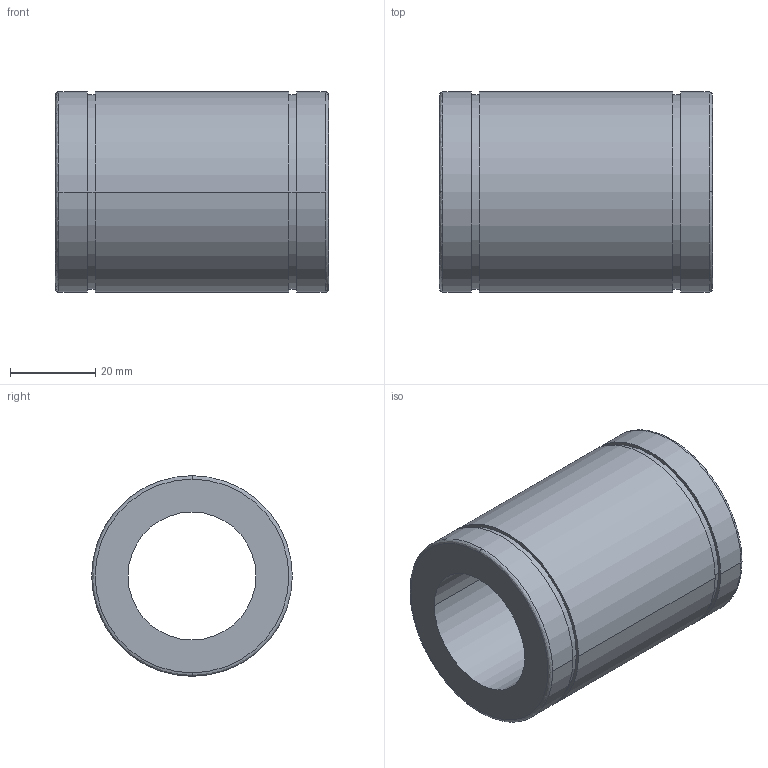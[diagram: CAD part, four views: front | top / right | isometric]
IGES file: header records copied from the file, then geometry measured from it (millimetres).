
Start section: 3D InterOp IGES (Version 21 0 1), Spatial Corp. Copyright (c) 1999-2007.
Global section: file name: N-30UU.igs; native system: Spatial Corp.; preprocessor: 3D InterOp GENERIC/IGES 3.0; author: Noname; organization: Noname; date: 20220311.144909; units: millimetre
Bounding box: 64 x 47 x 47 mm (x, y, z)
Surface area: 17854.4 mm2 (no closed solid volume)
Topology: 0 solids, 0 shells, 22 faces, 100 edges, 100 vertices
Faces by surface type: revolution 16, extrusion 6
